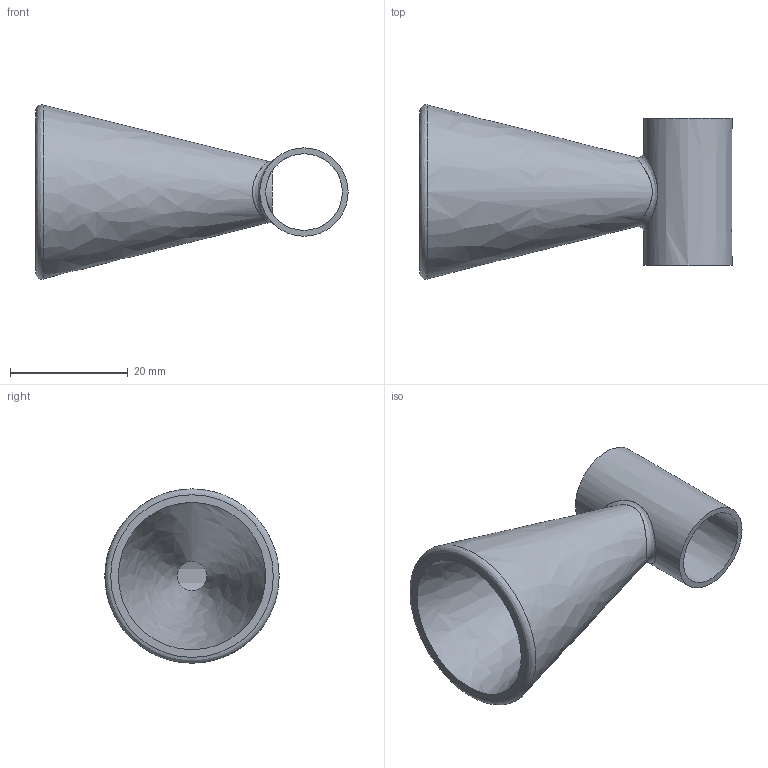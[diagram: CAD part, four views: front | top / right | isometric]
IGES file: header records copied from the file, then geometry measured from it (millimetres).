
Start section: Data from Parasolid IGES Translator 21.0.47, Copyright(c) 2006 Siemens P LM Software. All Rights Reserved.
Global section: file name: 5a744cefa5735f1002762f6a.iges; native system: By Siemens PLM Incorporated; preprocessor: XPlus GENERIC/IGES 21.0.47; author: Noname; organization: Noname; date: 20180202.113512; units: metre
Bounding box: 53.01 x 29.55 x 29.56 mm (x, y, z)
Surface area: 6854.3 mm2 (no closed solid volume)
Topology: 0 solids, 0 shells, 17 faces, 82 edges, 75 vertices
Faces by surface type: revolution 11, extrusion 5, bspline 1
